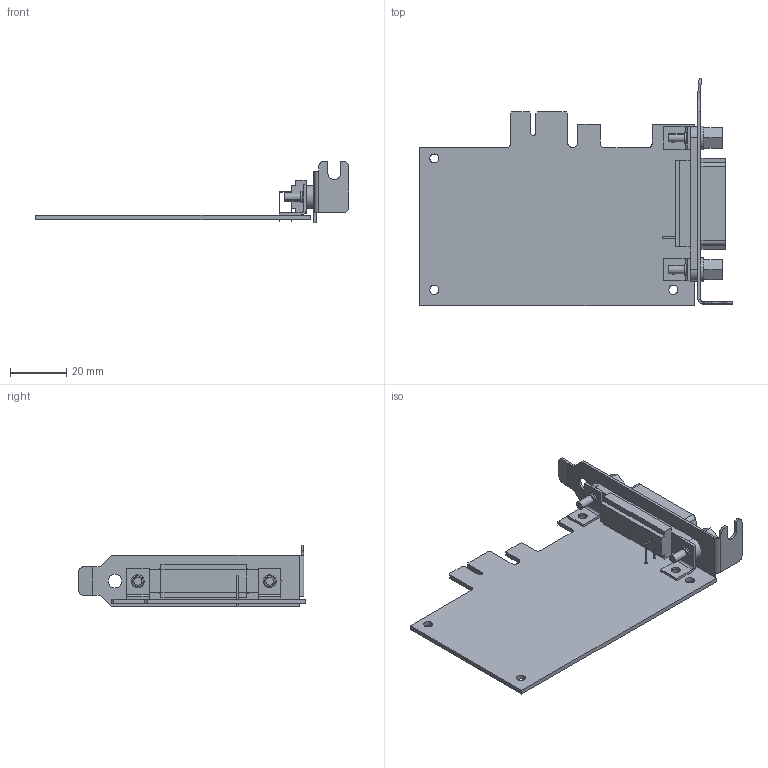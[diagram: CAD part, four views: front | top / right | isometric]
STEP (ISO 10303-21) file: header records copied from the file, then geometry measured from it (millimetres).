
FILE_DESCRIPTION((''),'2;1');
FILE_NAME('CU_PCIE_GPIB_LP','2015-12-21T',('dkendric'),(''),'PRO/ENGINEER BY PARAMETRIC TECHNOLOGY CORPORATION, 2015280','PRO/ENGINEER BY PARAMETRIC TECHNOLOGY CORPORATION, 2015280','');
FILE_SCHEMA(('CONFIG_CONTROL_DESIGN'));
Length unit declared in the file: inch
Products named in the file (1): CU_PCIE_GPIB_LP
Bounding box: 111.08 x 80.7 x 22 mm (x, y, z)
Volume: 15808.8 mm3; surface area: 19295.6 mm2
Topology: 1 solids, 1 shells, 221 faces, 595 edges, 388 vertices
Faces by surface type: plane 144, cylinder 73, torus 4
Entity records: 7007 total; most frequent: DIRECTION 1211, CARTESIAN_POINT 1204, ORIENTED_EDGE 1190, EDGE_CURVE 595, VECTOR 421, LINE 421, AXIS2_PLACEMENT_3D 395, VERTEX_POINT 388
